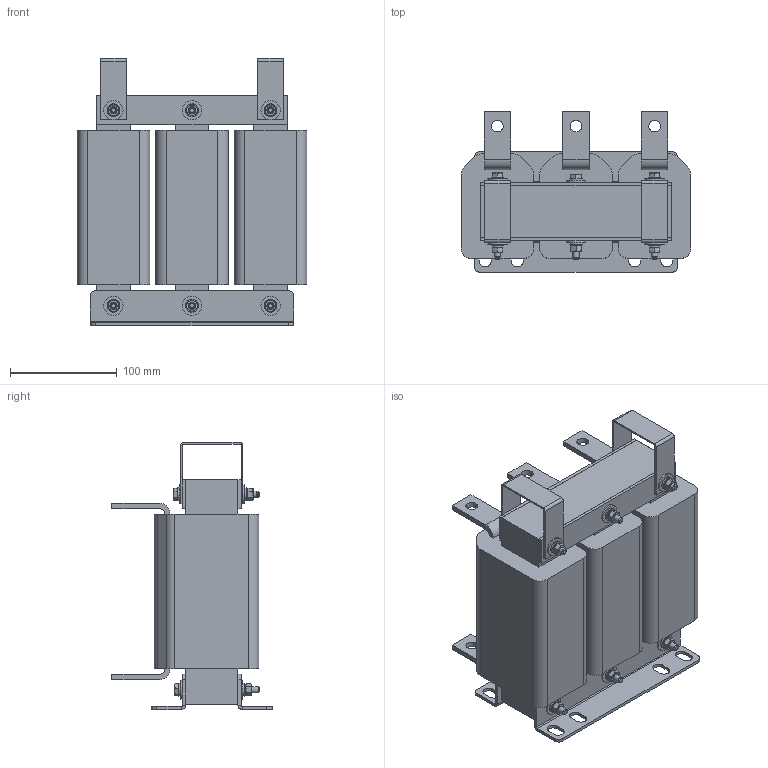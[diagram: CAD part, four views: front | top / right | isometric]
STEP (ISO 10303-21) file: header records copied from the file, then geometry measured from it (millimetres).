
FILE_DESCRIPTION(('STEP AP203'), '1');
FILE_NAME('填蝾痦 漯铖皴朦 _ IMF-110_210-4', '', ('UNSPECIFIED'), ('UNSPECIFIED'), 'C3D Converter', 'C3D Toolkit', '');
FILE_SCHEMA(('CONFIG_CONTROL_DESIGN'));
Length unit declared in the file: millimetre
Products named in the file (17): IMF-110_210-4; DIN 125 (A); ГОСТ 15591-70; DIN 127 (A); DIN 934
Assembly tree (63 placements, depth 3):
  IMF-110_210-4
    IMF-110_210-4
    IMF-110_210-4  x2
    IMF-110_210-4  x3
    IMF-110_210-4  x6
    (unnamed)  x12
      (unnamed)
    DIN 125 (A)  x12
      (unnamed)
    ГОСТ 15591-70  x6
      (unnamed)
    DIN 127 (A)  x6
      (unnamed)
    DIN 934  x6
      (unnamed)
    IMF-110_210-4  x2
    IMF-110_210-4  x2
Bounding box: 215 x 150 x 250 mm (x, y, z)
Volume: 3456228.5 mm3; surface area: 512017.4 mm2
Topology: 59 solids, 59 shells, 622 faces, 1344 edges, 846 vertices
Faces by surface type: plane 354, cylinder 166, cone 96, torus 6
Full cylindrical faces by diameter (mm): 4.917 x6, 6 x22, 6.4 x24, 8 x6, 11 x6, 12 x12, 18 x12
Entity records: 8119 total; most frequent: CARTESIAN_POINT 1657, DIRECTION 932, ORIENTED_EDGE 754, EDGE_CURVE 377, AXIS2_PLACEMENT_3D 352, VERTEX_POINT 255, EDGE_LOOP 250, LINE 228
